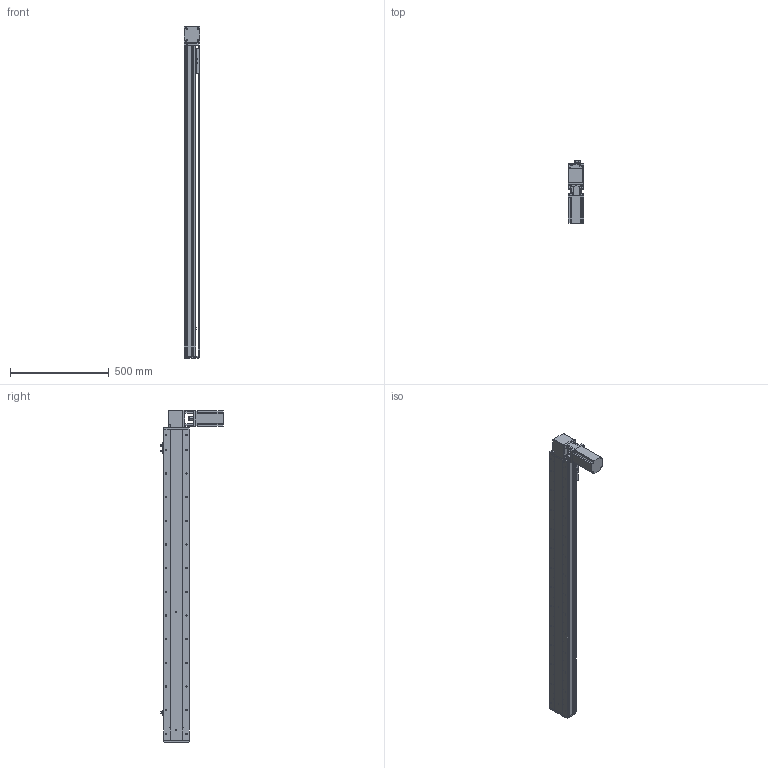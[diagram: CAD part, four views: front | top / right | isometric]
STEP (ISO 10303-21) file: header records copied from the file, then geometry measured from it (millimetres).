
FILE_DESCRIPTION (( 'STEP AP214' ), '1' );
FILE_NAME ('KSD130B-S1350-MRT-CM.STEP', '2019-11-16T03:44:47', ( '微软用户' ), ( '微软中国' ), 'SwSTEP 2.0', 'SolidWorks 2014', '' );
FILE_SCHEMA (( 'AUTOMOTIVE_DESIGN' ));
Length unit declared in the file: millimetre
Products named in the file (12): 台达ECMA－C20807AS伺服电机; 130宽马达安装板1-带电机座750W（1）; 覜茼え100遵圉猾敕; U倰嫖萇EEㄜSX672; 130宽安装板同步带带电机座750W; 130宽盖板半封闭同步带-1350行程; 130宽马达安装板同步带左-改; 130宽马达安装板同步带半封闭; 130宽同步带安装座半封闭; 130宽端盖同步带半封闭; 130宽底板半封闭同步带-1350行程; KSD130B-S1350-MRT-CM
Assembly tree (13 placements, depth 2):
  KSD130B-S1350-MRT-CM
    130宽底板半封闭同步带-1350行程
    130宽端盖同步带半封闭
    130宽同步带安装座半封闭
    130宽马达安装板同步带半封闭
    130宽马达安装板同步带左-改
    130宽盖板半封闭同步带-1350行程
    130宽安装板同步带带电机座750W
    U倰嫖萇EEㄜSX672  x3
    覜茼え100遵圉猾敕
    130宽马达安装板1-带电机座750W（1）
    台达ECMA－C20807AS伺服电机
Bounding box: 81 x 316 x 1683 mm (x, y, z)
Volume: 5906937.1 mm3; surface area: 1602718.2 mm2
Topology: 14 solids, 14 shells, 1619 faces, 4672 edges, 2971 vertices
Faces by surface type: cylinder 793, plane 621, cone 205
Entity records: 54355 total; most frequent: CARTESIAN_POINT 10353, DIRECTION 8222, ORIENTED_EDGE 7932, EDGE_CURVE 3966, AXIS2_PLACEMENT_3D 3032, VERTEX_POINT 2595, LINE 2158, VECTOR 2158
